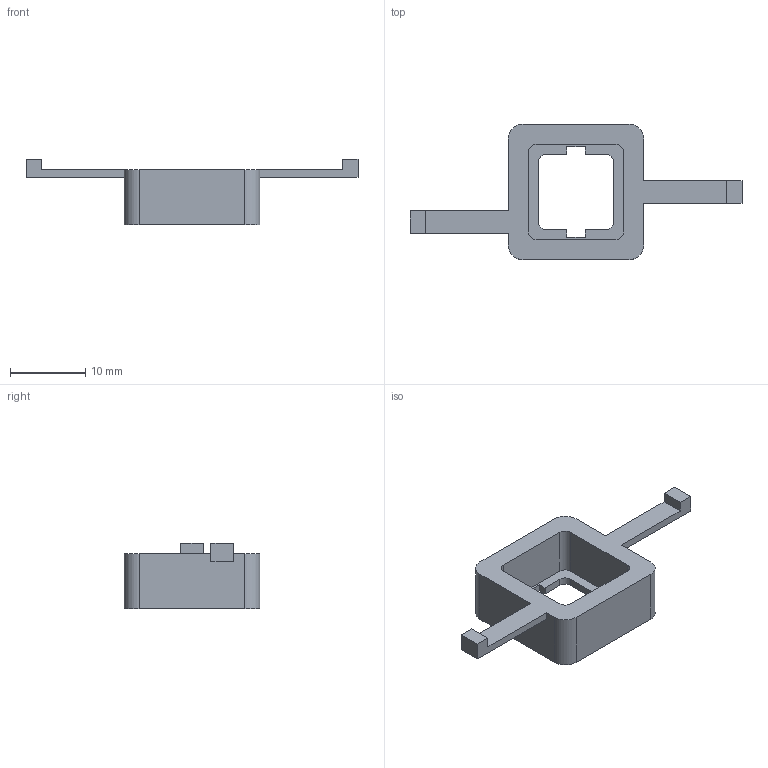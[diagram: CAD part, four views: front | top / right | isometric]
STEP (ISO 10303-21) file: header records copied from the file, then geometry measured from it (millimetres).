
FILE_DESCRIPTION(('Open CASCADE Model'),'2;1');
FILE_NAME('Open CASCADE Shape Model','2026-09-06T11:28:54',('Author'),( 'Open CASCADE'),'Open CASCADE STEP processor 7.7','Open CASCADE 7.7' ,'Unknown');
FILE_SCHEMA(('AUTOMOTIVE_DESIGN { 1 0 10303 214 1 1 1 1 }'));
Length unit declared in the file: millimetre
Products named in the file (1): Open CASCADE STEP translator 7.7 22
Bounding box: 44 x 18 x 8.7 mm (x, y, z)
Volume: 1336.2 mm3; surface area: 1518.8 mm2
Topology: 1 solids, 1 shells, 47 faces, 132 edges, 88 vertices
Faces by surface type: plane 35, cylinder 12
Entity records: 3234 total; most frequent: CARTESIAN_POINT 592, DIRECTION 486, LINE 324, VECTOR 324, ORIENTED_EDGE 264, PCURVE 264, DEFINITIONAL_REPRESENTATION 264, EDGE_CURVE 132
